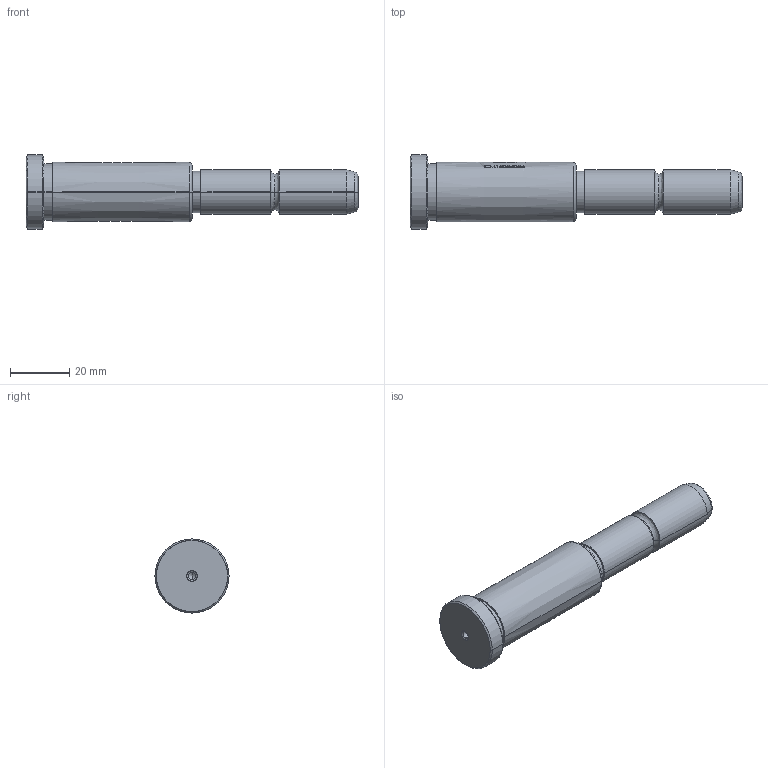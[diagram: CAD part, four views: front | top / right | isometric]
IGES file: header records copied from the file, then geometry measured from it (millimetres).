
Start section: SolidWorks IGES file using analytic representation for surfaces
Global section: file name: D:\TRIVECTOR\2026\08_Agosto\CM - COLUNA PRINCIPAL E31 (CATÁLOGO)\CM15056056.IGS; native system: SolidWorks 2024; preprocessor: SolidWorks 2024; author: Usuario; date: 260828.160035; units: millimetre
Bounding box: 112 x 25 x 25 mm (x, y, z)
Surface area: 7363.3 mm2 (no closed solid volume)
Topology: 0 solids, 0 shells, 467 faces, 4730 edges, 4726 vertices
Faces by surface type: bspline 389, revolution 78
